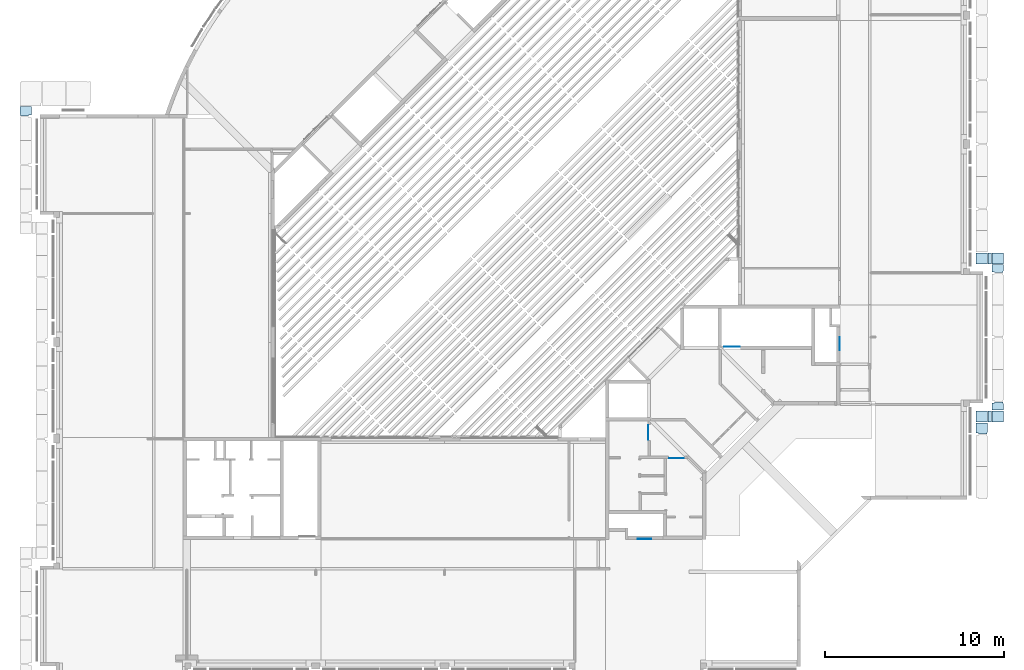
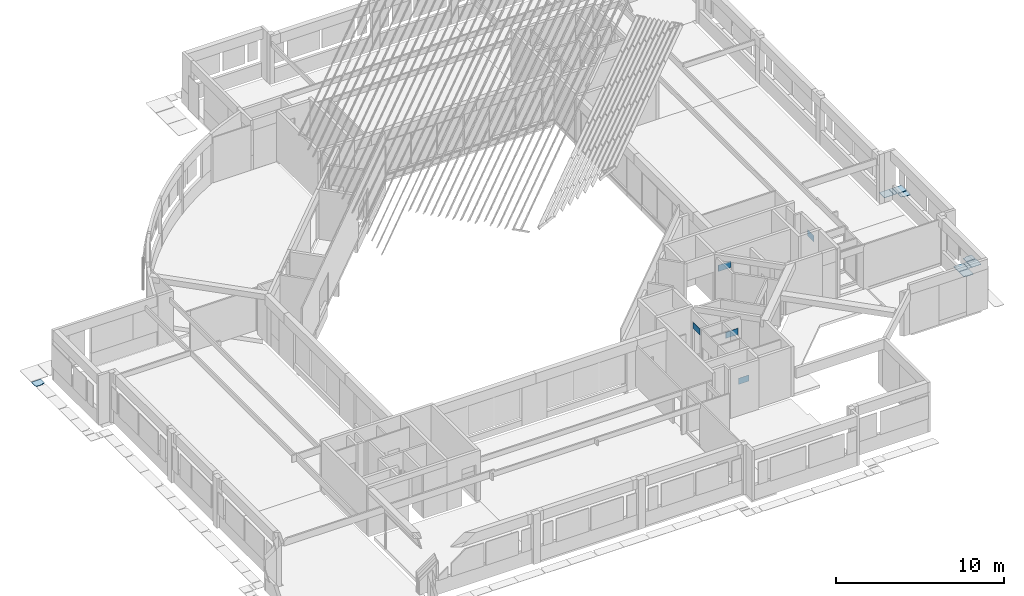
# One storey, part 23 of 37: 10 slabs, 5 plates.
"""IFC4X3_ADD2 building model written with IfcOpenShell, lengths in millimetres."""

from ifc_helpers import new_model, si_unit, direction, frame, frame_2d, origin_with_axes, origin_2d_with_axis, place, context, subcontext, project, spatial, polyline, rectangle, outline, extrude, source, transform, mapped, material, type_object, element, save


model = new_model("IFC4X3_ADD2")

# Units and contexts
model_context = context("Model", 3, precision=1e-05, world=origin_with_axes(), true_north=direction((0.0, 1.0)))
body_context = subcontext(model_context, "Body", "Model", "MODEL_VIEW")
ifc_project = project(units=[si_unit("LENGTHUNIT", "METRE", prefix="MILLI"), si_unit("AREAUNIT", "SQUARE_METRE"), si_unit("VOLUMEUNIT", "CUBIC_METRE"), si_unit("PLANEANGLEUNIT", "RADIAN"), si_unit("TIMEUNIT", "SECOND"), si_unit("MASSUNIT", "GRAM")], contexts=[model_context])

# Site, building, storey
site_placement = place(None, origin_with_axes())
site = spatial("IfcSite", under=ifc_project, at=site_placement, Name="Site", CompositionType="ELEMENT")
building_placement = place(site_placement, origin_with_axes())
building = spatial("IfcBuilding", under=site, at=building_placement, Name="IFC Building Story")
storey_placement = place(building_placement, frame((0.0, 0.0, 3600.0), z_axis=(0.0, 0.0, 1.0), x_axis=(1.0, 0.0, 0.0)))
storey = spatial("IfcBuildingStorey", under=building, at=storey_placement, Name="010", Elevation=3600.0)

# Plates
ifc_material_1 = material(Name="BB_Glas")
shared_shape_1 = source(origin_with_axes(), body_context, "Body", "SweptSolid", [
    extrude(rectangle(XDim=728.000000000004, YDim=454.000000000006, at=origin_2d_with_axis()), frame((0.0, 0.0, -17.0), z_axis=(0.0, 0.0, 1.0), x_axis=(1.0, 0.0, 0.0)), (0.0, 0.0, 1.0), 17.0),
])
for number, where, z_axis, x_axis, name in (
    (1, (-17930.0820395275, 7017.0, 2284.0), (0.0, -1.0, 0.0), (-1.0, 0.0, 0.0), "BB_10.10_Binnenbeglazing, rechthoekig_GMO:XX_Geen"),
    (2, (-7017.0, 17929.7208049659, 2284.0), (1.0, 0.0, 0.0), (0.0, -1.0, 0.0), "BB_10.10_Binnenbeglazing, rechthoekig_GMO:XX_Geen"),
):
    element("IfcPlate", number, at=place(storey_placement, frame(where, z_axis=z_axis, x_axis=x_axis)), inside=storey, material=ifc_material_1, Name=name, ObjectType="BB_10.10_Binnenbeglazing, rechthoekig_GMO:XX_Geen", PredefinedType="USERDEFINED", context=body_context, shape_type="MappedRepresentation", body=[
        mapped(shared_shape_1, transform((0.0, 0.0, 0.0))),
    ])
shared_shape_2 = source(origin_with_axes(), body_context, "Body", "SweptSolid", [
    extrude(rectangle(XDim=828.000000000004, YDim=454.000000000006, at=origin_2d_with_axis()), frame((0.0, 0.0, -17.0), z_axis=(0.0, 0.0, 1.0), x_axis=(1.0, 0.0, 0.0)), (0.0, 0.0, 1.0), 17.0),
])
for number, where, z_axis, x_axis, name in (
    (3, (-17724.0, 12970.0, 2284.0), (-1.0, 0.0, 0.0), (0.0, -1.0, 0.0), "BB_10.10_Binnenbeglazing, rechthoekig_GMO:XX_Geen"),
    (4, (-16147.0, 11526.0, 2284.0), (0.0, -1.0, 0.0), (1.0, 0.0, 0.0), "BB_10.10_Binnenbeglazing, rechthoekig_GMO:XX_Geen"),
):
    element("IfcPlate", number, at=place(storey_placement, frame(where, z_axis=z_axis, x_axis=x_axis)), inside=storey, material=ifc_material_1, Name=name, ObjectType="BB_10.10_Binnenbeglazing, rechthoekig_GMO:XX_Geen", PredefinedType="USERDEFINED", context=body_context, shape_type="MappedRepresentation", body=[
        mapped(shared_shape_2, transform((0.0, 0.0, 0.0))),
    ])
shared_shape_3 = source(origin_with_axes(), body_context, "Body", "SweptSolid", [
    extrude(rectangle(XDim=878.000000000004, YDim=454.000000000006, at=origin_2d_with_axis()), frame((0.0, 0.0, -17.0), z_axis=(0.0, 0.0, 1.0), x_axis=(1.0, 0.0, 0.0)), (0.0, 0.0, 1.0), 17.0),
])
plate_placement = place(storey_placement, frame((-13035.0, 17768.0, 2284.0), z_axis=(0.0, 1.0, 0.0), x_axis=(1.0, 0.0, 0.0)))
element("IfcPlate", 5, at=plate_placement, inside=storey, material=ifc_material_1, Name="BB_10.10_Binnenbeglazing, rechthoekig_GMO:XX_Geen", ObjectType="BB_10.10_Binnenbeglazing, rechthoekig_GMO:XX_Geen", PredefinedType="USERDEFINED", context=body_context, shape_type="MappedRepresentation", body=[
    mapped(shared_shape_3, transform((0.0, 0.0, 0.0))),
])

# Slabs
ifc_material_2 = material(Name="Steel, Galvanized - looprooster")
slab_type = type_object("IfcSlabType", Name="Steel, Galvanized - looprooster 30", PredefinedType="FLOOR", material=ifc_material_2)
slab_1_placement = place(storey_placement, frame((-52819.9983978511, 30644.99996376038, -350.0), z_axis=(0.0, 0.0, 1.0), x_axis=(1.0, 0.0, 0.0)))
element("IfcSlab", 6, at=slab_1_placement, inside=storey, type_object=slab_type, Name="Floor:GVH - Looprooster 30 mm", ObjectType="Floor:GVH - Looprooster 30 mm", PredefinedType="FLOOR", context=body_context, shape_type="SweptSolid", body=[
    extrude(outline(polyline([(-267.501716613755, -168.8752737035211), (-267.501716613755, -81.87547397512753), (-282.4994277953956, -81.87547397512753), (-282.4994277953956, 367.6260213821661), (347.5005722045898, 367.6260213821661), (347.5005722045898, -116.8752737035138), (202.5005722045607, -116.8752737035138), (202.5005722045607, -168.8752737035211), (-267.501716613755, -168.8752737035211)])), frame((282.4994277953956, 168.8752737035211, 0.0), z_axis=(0.0, 0.0, 1.0), x_axis=(1.0, 0.0, 0.0)), (0.0, 0.0, 1.0), 30.0),
])
slab_2_placement = place(storey_placement, frame((589.9987411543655, 22379.50160214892, -350.0), z_axis=(0.0, 0.0, 1.0), x_axis=(1.0, 0.0, 0.0)))
element("IfcSlab", 7, at=slab_2_placement, inside=storey, type_object=slab_type, Name="Floor:GVH - Looprooster 30 mm", ObjectType="Floor:GVH - Looprooster 30 mm", PredefinedType="FLOOR", context=body_context, shape_type="SweptSolid", body=[
    extrude(rectangle(XDim=629.9996566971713, YDim=629.9996566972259, at=frame_2d((0.0, 0.0), x_axis=(0.0, 1.0))), frame((314.9998283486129, 314.9998283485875, 0.0), z_axis=(0.0, 0.0, 1.0), x_axis=(1.0, 0.0, 0.0)), (0.0, 0.0, 1.0), 30.0),
])
slab_3_placement = place(storey_placement, frame((1489.998741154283, 22379.50160214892, -350.0), z_axis=(0.0, 0.0, 1.0), x_axis=(1.0, 0.0, 0.0)))
element("IfcSlab", 8, at=slab_3_placement, inside=storey, type_object=slab_type, Name="Floor:GVH - Looprooster 30 mm", ObjectType="Floor:GVH - Looprooster 30 mm", PredefinedType="FLOOR", context=body_context, shape_type="SweptSolid", body=[
    extrude(rectangle(XDim=629.9996566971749, YDim=629.9996566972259, at=frame_2d((0.0, 0.0), x_axis=(0.0, 1.0))), frame((314.9998283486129, 314.9998283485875, 0.0), z_axis=(0.0, 0.0, 1.0), x_axis=(1.0, 0.0, 0.0)), (0.0, 0.0, 1.0), 30.0),
])
slab_4_placement = place(storey_placement, frame((1254.99874115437, 23009.50304028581, -350.0), z_axis=(0.0, 0.0, 1.0), x_axis=(0.0, -1.0, 0.0)))
element("IfcSlab", 9, at=slab_4_placement, inside=storey, type_object=slab_type, Name="Floor:GVH - Looprooster 30 mm", ObjectType="Floor:GVH - Looprooster 30 mm", PredefinedType="FLOOR", context=body_context, shape_type="SweptSolid", body=[
    extrude(rectangle(XDim=629.9996566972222, YDim=199.9999999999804, at=frame_2d((0.0, 0.0), x_axis=(-1.0, 0.0))), frame((314.9998283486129, 99.99999999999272, 0.0), z_axis=(0.0, 0.0, 1.0), x_axis=(1.0, 0.0, 0.0)), (0.0, 0.0, 1.0), 30.0),
])
slab_5_placement = place(storey_placement, frame((1254.99874115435, 14180.00010681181, -350.0), z_axis=(0.0, 0.0, 1.0), x_axis=(0.0, -1.0, 0.0)))
element("IfcSlab", 10, at=slab_5_placement, inside=storey, type_object=slab_type, Name="Floor:GVH - Looprooster 30 mm", ObjectType="Floor:GVH - Looprooster 30 mm", PredefinedType="FLOOR", context=body_context, shape_type="SweptSolid", body=[
    extrude(rectangle(XDim=629.9996566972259, YDim=199.9999999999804, at=frame_2d((0.0, 0.0), x_axis=(-1.0, 0.0))), frame((314.9998283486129, 99.99999999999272, 0.0), z_axis=(0.0, 0.0, 1.0), x_axis=(1.0, 0.0, 0.0)), (0.0, 0.0, 1.0), 30.0),
])
slab_6_placement = place(storey_placement, frame((589.998741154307, 12894.99996376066, -350.0), z_axis=(0.0, 0.0, 1.0), x_axis=(1.0, 0.0, 0.0)))
element("IfcSlab", 11, at=slab_6_placement, inside=storey, type_object=slab_type, Name="Floor:GVH - Looprooster 30 mm", ObjectType="Floor:GVH - Looprooster 30 mm", PredefinedType="FLOOR", context=body_context, shape_type="SweptSolid", body=[
    extrude(outline(polyline([(-202.4983406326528, -188.8750357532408), (-202.4983406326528, -136.8750357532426), (-347.5004386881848, -136.8750357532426), (-347.5004386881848, 427.6251072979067), (282.4992180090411, 427.6251072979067), (282.4992180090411, -101.8750357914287), (267.4995613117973, -101.8750357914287), (267.4995613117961, -188.8750357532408), (-202.4983406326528, -188.8750357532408)])), frame((347.5004386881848, 188.8750357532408, 0.0), z_axis=(0.0, 0.0, 1.0), x_axis=(1.0, 0.0, 0.0)), (0.0, 0.0, 1.0), 30.0),
])
slab_7_placement = place(storey_placement, frame((589.998741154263, 13550.00045011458, -350.0), z_axis=(0.0, 0.0, 1.0), x_axis=(1.0, 0.0, 0.0)))
element("IfcSlab", 12, at=slab_7_placement, inside=storey, type_object=slab_type, Name="Floor:GVH - Looprooster 30 mm", ObjectType="Floor:GVH - Looprooster 30 mm", PredefinedType="FLOOR", context=body_context, shape_type="SweptSolid", body=[
    extrude(rectangle(XDim=629.9999999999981, YDim=629.9996566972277, at=origin_2d_with_axis()), frame((314.9999999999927, 314.9998283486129, 0.0), z_axis=(0.0, 0.0, 1.0), x_axis=(1.0, 0.0, 0.0)), (0.0, 0.0, 1.0), 30.0),
])
slab_8_placement = place(storey_placement, frame((1489.998741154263, 13550.00045011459, -350.0), z_axis=(0.0, 0.0, 1.0), x_axis=(1.0, 0.0, 0.0)))
element("IfcSlab", 13, at=slab_8_placement, inside=storey, type_object=slab_type, Name="Floor:GVH - Looprooster 30 mm", ObjectType="Floor:GVH - Looprooster 30 mm", PredefinedType="FLOOR", context=body_context, shape_type="SweptSolid", body=[
    extrude(rectangle(XDim=629.9999999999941, YDim=629.9996566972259, at=origin_2d_with_axis()), frame((314.9999999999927, 314.9998283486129, 0.0), z_axis=(0.0, 0.0, 1.0), x_axis=(1.0, 0.0, 0.0)), (0.0, 0.0, 1.0), 30.0),
])
slab_9_placement = place(storey_placement, frame((1489.998741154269, 14218.50125884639, -350.0), z_axis=(0.0, 0.0, 1.0), x_axis=(1.0, 0.0, 0.0)))
element("IfcSlab", 14, at=slab_9_placement, inside=storey, type_object=slab_type, Name="Floor:GVH - Looprooster 30 mm", ObjectType="Floor:GVH - Looprooster 30 mm", PredefinedType="FLOOR", context=body_context, shape_type="SweptSolid", body=[
    extrude(outline(polyline([(282.4994773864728, 59.374676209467), (282.4994773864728, -300.1240286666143), (-347.5005226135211, -300.1240286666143), (-347.5005226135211, 94.37467624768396), (-202.4984321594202, 94.37467624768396), (-202.4984321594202, 146.3746762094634), (267.4994773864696, 146.374676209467), (267.4994773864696, 59.374676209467), (282.4994773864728, 59.374676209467)])), frame((347.5005226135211, 300.1240286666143, 0.0), z_axis=(0.0, 0.0, 1.0), x_axis=(1.0, 0.0, 0.0)), (0.0, 0.0, 1.0), 30.0),
])
slab_10_placement = place(storey_placement, frame((1489.998741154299, 21895.00003627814, -350.0), z_axis=(0.0, 0.0, 1.0), x_axis=(1.0, 0.0, 0.0)))
element("IfcSlab", 15, at=slab_10_placement, inside=storey, type_object=slab_type, Name="Floor:GVH - Looprooster 30 mm", ObjectType="Floor:GVH - Looprooster 30 mm", PredefinedType="FLOOR", context=body_context, shape_type="SweptSolid", body=[
    extrude(outline(polyline([(-202.4984321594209, -146.3746762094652), (-202.4984321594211, -94.37467624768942), (-347.5005226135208, -94.37467624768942), (-347.5005226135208, 300.1240286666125), (282.4994773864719, 300.1240286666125), (282.4994773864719, -59.374676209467), (267.4994773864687, -59.374676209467), (267.4994773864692, -146.3746762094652), (-202.4984321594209, -146.3746762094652)])), frame((347.5005226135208, 146.3746762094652, 0.0), z_axis=(0.0, 0.0, 1.0), x_axis=(1.0, 0.0, 0.0)), (0.0, 0.0, 1.0), 30.0),
])

save(model, "model.ifc")
